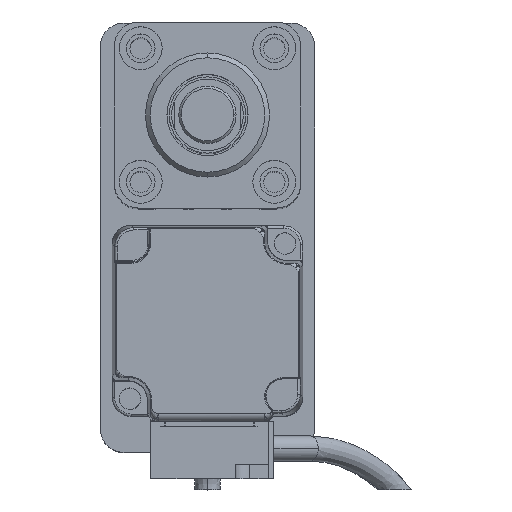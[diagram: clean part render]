
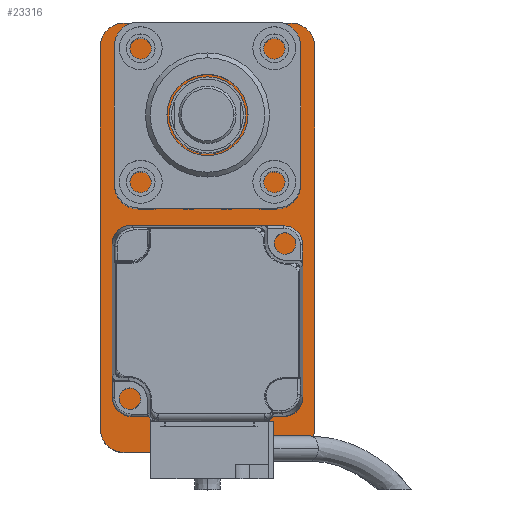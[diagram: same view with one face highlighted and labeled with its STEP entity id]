
A CAD part, top view. The second image highlights one B-rep face of the part: STEP entity #23316.
In plain terms, the highlighted planar face has unit normal (0, 0, 1).
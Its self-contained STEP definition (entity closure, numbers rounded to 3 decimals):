
#451 = VERTEX_POINT ( 'NONE', #26002 ) ;
#1563 = ORIENTED_EDGE ( 'NONE', *, *, #28247, .T. ) ;
#1784 = CARTESIAN_POINT ( 'NONE',  ( -22.5, 40., 10. ) ) ;
#1818 = AXIS2_PLACEMENT_3D ( 'NONE', #13636, #20578, #15900 ) ;
#2112 = VECTOR ( 'NONE', #8004, 1000. ) ;
#2398 = CIRCLE ( 'NONE', #14157, 5. ) ;
#2660 = CARTESIAN_POINT ( 'NONE',  ( 22.5, -45., 10. ) ) ;
#2843 = CARTESIAN_POINT ( 'NONE',  ( -22.5, -40., 10. ) ) ;
#2862 = VERTEX_POINT ( 'NONE', #3390 ) ;
#3156 = CIRCLE ( 'NONE', #12029, 5. ) ;
#3174 = AXIS2_PLACEMENT_3D ( 'NONE', #11986, #11879, #21165 ) ;
#3390 = CARTESIAN_POINT ( 'NONE',  ( 17.5, 45., 10. ) ) ;
#3430 = DIRECTION ( 'NONE',  ( 0., 0., 1. ) ) ;
#4184 = ORIENTED_EDGE ( 'NONE', *, *, #12594, .T. ) ;
#4819 = LINE ( 'NONE', #18104, #28742 ) ;
#5188 = DIRECTION ( 'NONE',  ( 0., 0., 1. ) ) ;
#5732 = VERTEX_POINT ( 'NONE', #14369 ) ;
#5787 = ORIENTED_EDGE ( 'NONE', *, *, #16376, .T. ) ;
#6485 = VERTEX_POINT ( 'NONE', #2843 ) ;
#8004 = DIRECTION ( 'NONE',  ( 1., 0., 0. ) ) ;
#9870 = CARTESIAN_POINT ( 'NONE',  ( 17.5, -45., 10. ) ) ;
#10431 = DIRECTION ( 'NONE',  ( 1., 0., 0. ) ) ;
#10546 = ORIENTED_EDGE ( 'NONE', *, *, #16467, .T. ) ;
#10617 = VECTOR ( 'NONE', #20025, 1000. ) ;
#11879 = DIRECTION ( 'NONE',  ( 0., 0., 1. ) ) ;
#11986 = CARTESIAN_POINT ( 'NONE',  ( 17.5, 40., 10. ) ) ;
#12029 = AXIS2_PLACEMENT_3D ( 'NONE', #28937, #3430, #10431 ) ;
#12236 = CARTESIAN_POINT ( 'NONE',  ( -17.5, -45., 10. ) ) ;
#12594 = EDGE_CURVE ( 'NONE', #13280, #6485, #18611, .T. ) ;
#12682 = ORIENTED_EDGE ( 'NONE', *, *, #21297, .T. ) ;
#13190 = ORIENTED_EDGE ( 'NONE', *, *, #20523, .T. ) ;
#13280 = VERTEX_POINT ( 'NONE', #1784 ) ;
#13636 = CARTESIAN_POINT ( 'NONE',  ( 17.5, -40., 10. ) ) ;
#14157 = AXIS2_PLACEMENT_3D ( 'NONE', #21194, #14458, #18964 ) ;
#14369 = CARTESIAN_POINT ( 'NONE',  ( -17.5, 45., 10. ) ) ;
#14420 = VERTEX_POINT ( 'NONE', #9870 ) ;
#14458 = DIRECTION ( 'NONE',  ( 0., 0., 1. ) ) ;
#15009 = EDGE_CURVE ( 'NONE', #18169, #14420, #23171, .T. ) ;
#15900 = DIRECTION ( 'NONE',  ( 1., 0., 0. ) ) ;
#16042 = CIRCLE ( 'NONE', #1818, 5. ) ;
#16376 = EDGE_CURVE ( 'NONE', #6485, #18169, #2398, .T. ) ;
#16467 = EDGE_CURVE ( 'NONE', #5732, #13280, #3156, .T. ) ;
#17384 = ORIENTED_EDGE ( 'NONE', *, *, #20429, .T. ) ;
#17797 = FACE_OUTER_BOUND ( 'NONE', #18963, .T. ) ;
#18104 = CARTESIAN_POINT ( 'NONE',  ( 22.5, 45., 10. ) ) ;
#18169 = VERTEX_POINT ( 'NONE', #12236 ) ;
#18611 = LINE ( 'NONE', #26888, #10617 ) ;
#18722 = DIRECTION ( 'NONE',  ( 0., 1., 0. ) ) ;
#18752 = CARTESIAN_POINT ( 'NONE',  ( 22.5, -40., 10. ) ) ;
#18963 = EDGE_LOOP ( 'NONE', ( #13190, #17384, #1563, #10546, #4184, #5787, #24439, #12682 ) ) ;
#18964 = DIRECTION ( 'NONE',  ( 1., 0., 0. ) ) ;
#19089 = CARTESIAN_POINT ( 'NONE',  ( 0., 0., 10. ) ) ;
#20025 = DIRECTION ( 'NONE',  ( 0., -1., 0. ) ) ;
#20429 = EDGE_CURVE ( 'NONE', #451, #2862, #22644, .T. ) ;
#20523 = EDGE_CURVE ( 'NONE', #27544, #451, #28388, .T. ) ;
#20578 = DIRECTION ( 'NONE',  ( 0., 0., 1. ) ) ;
#21165 = DIRECTION ( 'NONE',  ( 1., 0., 0. ) ) ;
#21194 = CARTESIAN_POINT ( 'NONE',  ( -17.5, -40., 10. ) ) ;
#21297 = EDGE_CURVE ( 'NONE', #14420, #27544, #16042, .T. ) ;
#22296 = VECTOR ( 'NONE', #18722, 1000. ) ;
#22644 = CIRCLE ( 'NONE', #3174, 5. ) ;
#23171 = LINE ( 'NONE', #24220, #2112 ) ;
#23316 = ADVANCED_FACE ( 'NONE', ( #17797 ), #23929, .T. ) ;
#23929 = PLANE ( 'NONE',  #26759 ) ;
#24220 = CARTESIAN_POINT ( 'NONE',  ( 22.5, -45., 10. ) ) ;
#24439 = ORIENTED_EDGE ( 'NONE', *, *, #15009, .T. ) ;
#26002 = CARTESIAN_POINT ( 'NONE',  ( 22.5, 40., 10. ) ) ;
#26759 = AXIS2_PLACEMENT_3D ( 'NONE', #19089, #5188, #28560 ) ;
#26888 = CARTESIAN_POINT ( 'NONE',  ( -22.5, -45., 10. ) ) ;
#27544 = VERTEX_POINT ( 'NONE', #18752 ) ;
#28247 = EDGE_CURVE ( 'NONE', #2862, #5732, #4819, .T. ) ;
#28388 = LINE ( 'NONE', #2660, #22296 ) ;
#28560 = DIRECTION ( 'NONE',  ( 1., 0., 0. ) ) ;
#28742 = VECTOR ( 'NONE', #29810, 1000. ) ;
#28937 = CARTESIAN_POINT ( 'NONE',  ( -17.5, 40., 10. ) ) ;
#29810 = DIRECTION ( 'NONE',  ( -1., 0., 0. ) ) ;
